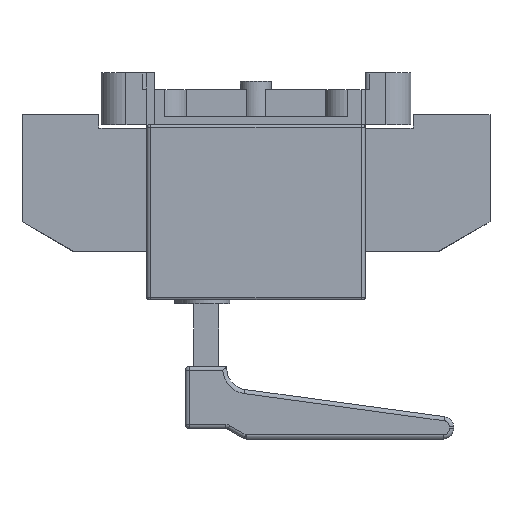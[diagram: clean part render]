
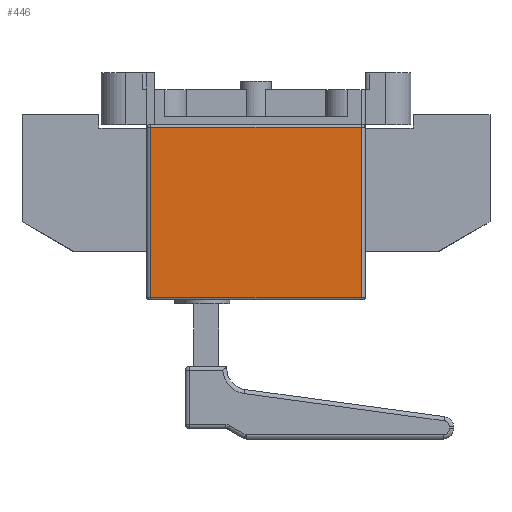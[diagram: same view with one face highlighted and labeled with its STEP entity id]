
A CAD part, left-side view. The second image highlights one B-rep face of the part: STEP entity #446.
In plain terms, the highlighted planar face has unit normal (-1, 0, 0).
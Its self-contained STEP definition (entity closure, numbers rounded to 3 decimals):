
#446=ADVANCED_FACE('',(#1239),#893,.F.);
#893=PLANE('',#9322);
#1239=FACE_OUTER_BOUND('',#1712,.T.);
#1712=EDGE_LOOP('',(#3048,#3049,#3050,#3051));
#3048=ORIENTED_EDGE('',*,*,#6258,.T.);
#3049=ORIENTED_EDGE('',*,*,#6259,.T.);
#3050=ORIENTED_EDGE('',*,*,#6255,.F.);
#3051=ORIENTED_EDGE('',*,*,#6260,.T.);
#5332=VERTEX_POINT('',#13267);
#5333=VERTEX_POINT('',#13268);
#5334=VERTEX_POINT('',#13273);
#5335=VERTEX_POINT('',#13274);
#6255=EDGE_CURVE('',#5332,#5333,#7411,.T.);
#6258=EDGE_CURVE('',#5334,#5335,#7412,.T.);
#6259=EDGE_CURVE('',#5335,#5333,#7413,.T.);
#6260=EDGE_CURVE('',#5332,#5334,#7414,.T.);
#7411=LINE('',#13266,#8388);
#7412=LINE('',#13272,#8389);
#7413=LINE('',#13275,#8390);
#7414=LINE('',#13276,#8391);
#8388=VECTOR('',#10588,1.);
#8389=VECTOR('',#10595,1.);
#8390=VECTOR('',#10596,1.);
#8391=VECTOR('',#10597,1.);
#9322=AXIS2_PLACEMENT_3D('',#13277,#10598,#10599);
#10588=DIRECTION('',(0.,0.,1.));
#10595=DIRECTION('',(0.,0.,1.));
#10596=DIRECTION('',(0.,1.,0.));
#10597=DIRECTION('',(0.,-1.,0.));
#10598=DIRECTION('',(1.,0.,0.));
#10599=DIRECTION('',(0.,1.,0.));
#13266=CARTESIAN_POINT('',(-197.5,50.5,-84.));
#13267=CARTESIAN_POINT('',(-197.5,50.5,-83.));
#13268=CARTESIAN_POINT('',(-197.5,50.5,-1.));
#13272=CARTESIAN_POINT('',(-197.5,-50.5,-84.));
#13273=CARTESIAN_POINT('',(-197.5,-50.5,-83.));
#13274=CARTESIAN_POINT('',(-197.5,-50.5,-1.));
#13275=CARTESIAN_POINT('',(-197.5,-50.5,-1.));
#13276=CARTESIAN_POINT('',(-197.5,-50.5,-83.));
#13277=CARTESIAN_POINT('',(-197.5,-50.5,-84.));
